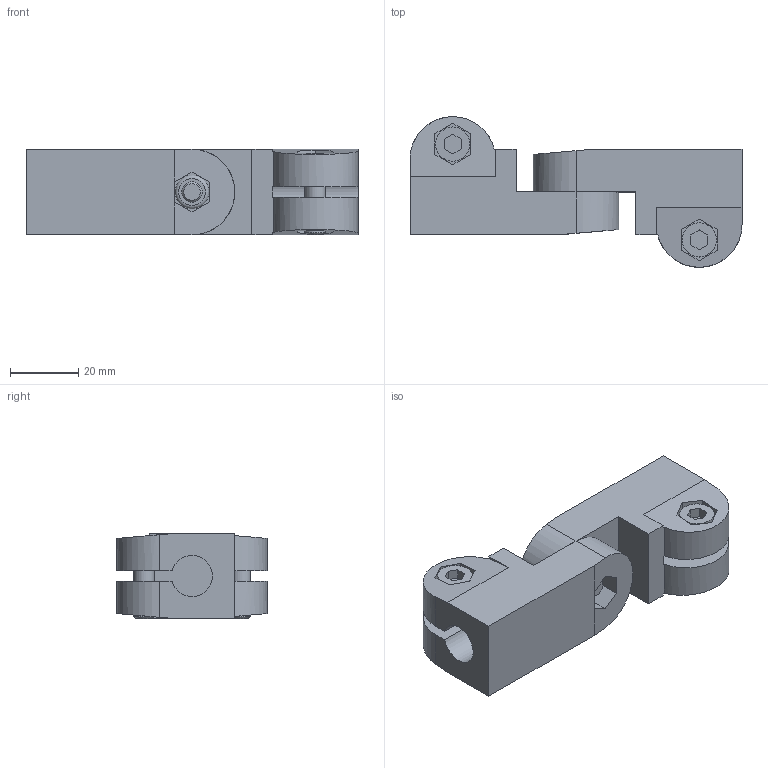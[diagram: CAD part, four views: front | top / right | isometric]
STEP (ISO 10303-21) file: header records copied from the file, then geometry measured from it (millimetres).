
FILE_DESCRIPTION( ( 'STEP AP203' ), '1' );
FILE_NAME( 'C:/Temp/Ganter_Step_05_03_2020/data/3_7/285/Swivel clamp connector joint GN 285-B12-B12-2-SW (0).stp', '2020-03-12T14:32:38', ( 'License CC BY-ND 4.0' ), ( 'CADENAS' ), ' ', 'PARTsolutions', ' ' );
FILE_SCHEMA( ( 'CONFIG_CONTROL_DESIGN' ) );
Length unit declared in the file: millimetre
Products named in the file (5): Swivel clamp connector joint GN 285-B12-B12-2-SW (0); _Swivel clamp connector base GN 285-B12-B12-2-SW-1; _Swivel clamp connector base GN 285-B12-B12-2-SW (0)-2; _Screw GN 285-M6-2; _Nut GN 285-M6-1
Assembly tree (4 placements, depth 2):
  Swivel clamp connector joint GN 285-B12-B12-2-SW (0)
    _Swivel clamp connector base GN 285-B12-B12-2-SW-1
    _Swivel clamp connector base GN 285-B12-B12-2-SW (0)-2
    _Screw GN 285-M6-2
    _Nut GN 285-M6-1
Bounding box: 97 x 44 x 25 mm (x, y, z)
Volume: 54317.1 mm3; surface area: 20535.8 mm2
Topology: 4 solids, 4 shells, 160 faces, 394 edges, 260 vertices
Faces by surface type: plane 126, cylinder 24, cone 8, torus 2
Full cylindrical faces by diameter (mm): 4.917 x1, 6 x5, 6.5 x2, 7 x4, 9.84 x1, 10 x3
Entity records: 4738 total; most frequent: CARTESIAN_POINT 886, DIRECTION 734, ORIENTED_EDGE 720, EDGE_CURVE 360, LINE 292, VECTOR 292, VERTEX_POINT 253, AXIS2_PLACEMENT_3D 221
